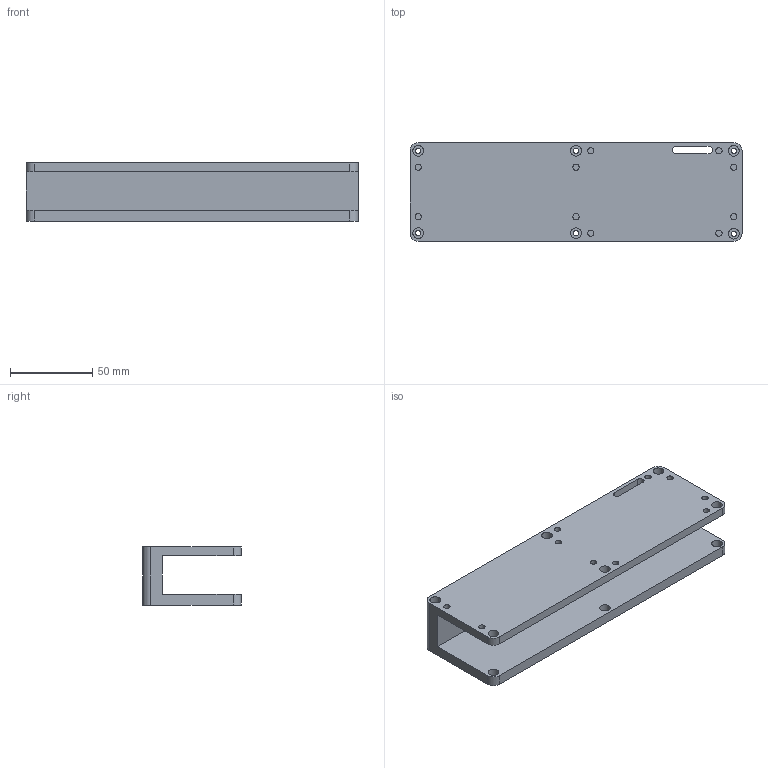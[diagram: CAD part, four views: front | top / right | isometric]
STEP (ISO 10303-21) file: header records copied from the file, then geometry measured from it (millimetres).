
FILE_DESCRIPTION(/* description */ (''),/* implementation_level */ '2;1');
FILE_NAME(/* name */ 'C:\Users\Karol\Documents\Inventor\gniazdo_desktop\C-Clamp_Bracket_20mm.stp',/* time_stamp */ '2026-03-16T23:00:42+01:00',/* author */ ('Karol'),/* organization */ (''),/* preprocessor_version */ 'ST-DEVELOPER v16.1',/* originating_system */ 'Autodesk Inventor 2016',/* authorisation */ '');
FILE_SCHEMA (('AUTOMOTIVE_DESIGN { 1 0 10303 214 3 1 1 }'));
Length unit declared in the file: millimetre
Products named in the file (1): blat_holder20mm
Bounding box: 201.44 x 60 x 35.3 mm (x, y, z)
Volume: 190118.6 mm3; surface area: 64133.1 mm2
Topology: 1 solids, 1 shells, 53 faces, 131 edges, 90 vertices
Faces by surface type: cylinder 33, plane 20
Full cylindrical faces by diameter (mm): 3.2 x6, 3.8 x10, 6.5 x9
Entity records: 1584 total; most frequent: DIRECTION 280, CARTESIAN_POINT 250, ORIENTED_EDGE 208, EDGE_LOOP 122, AXIS2_PLACEMENT_3D 120, EDGE_CURVE 104, VERTEX_POINT 86, FACE_BOUND 69
